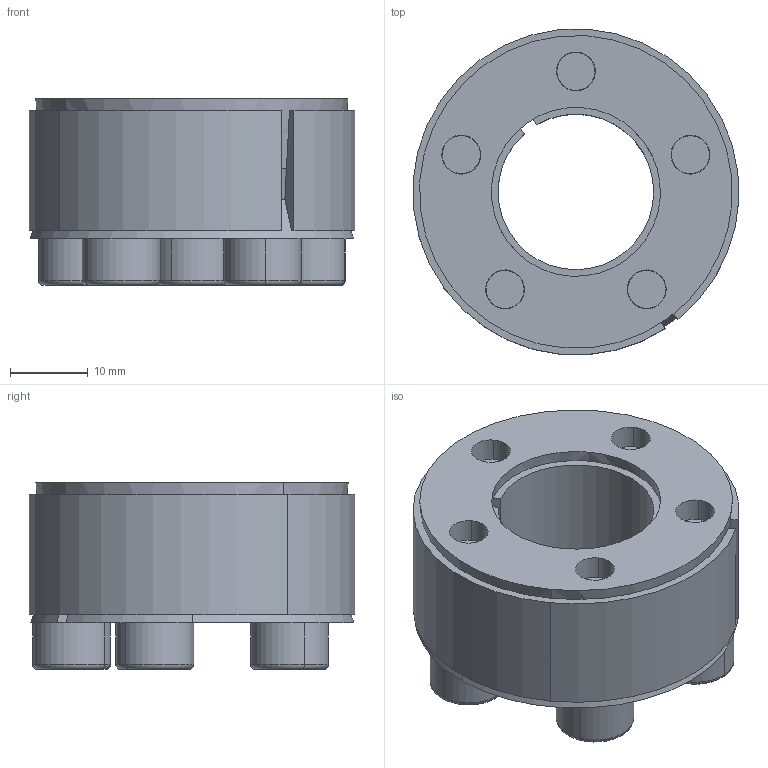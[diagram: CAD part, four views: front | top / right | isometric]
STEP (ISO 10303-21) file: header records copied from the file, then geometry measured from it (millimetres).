
FILE_DESCRIPTION (( 'STEP AP214' ), '1' );
FILE_NAME ('CONEX-L-20x42.step', '2013-04-06T13:22:18', ( 'Pc' ), ( '' ), 'SwSTEP 2.0', 'SolidWorks 2013', '' );
FILE_SCHEMA (( 'AUTOMOTIVE_DESIGN' ));
Length unit declared in the file: millimetre
Products named in the file (1): CONEX-L-20x42
Bounding box: 41.9 x 41.87 x 24.01 mm (x, y, z)
Volume: 18062.8 mm3; surface area: 16033.5 mm2
Topology: 8 solids, 8 shells, 192 faces, 441 edges, 265 vertices
Faces by surface type: plane 86, cylinder 50, cone 36, torus 20
Entity records: 7626 total; most frequent: DIRECTION 1018, CARTESIAN_POINT 922, ORIENTED_EDGE 862, EDGE_CURVE 431, AXIS2_PLACEMENT_3D 402, VERTEX_POINT 265, EDGE_LOOP 228, LINE 214
